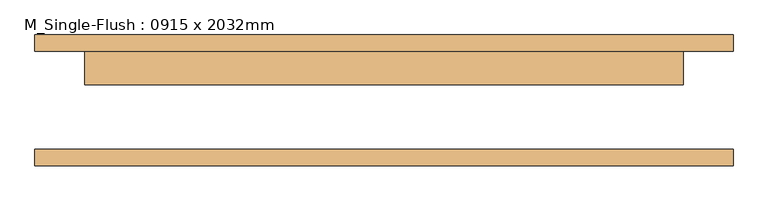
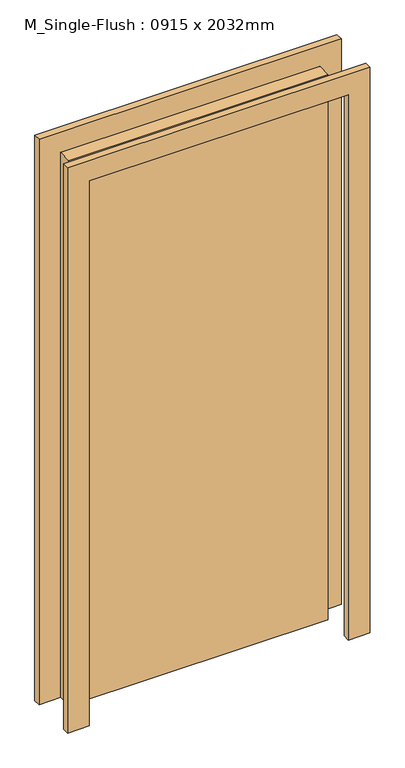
"""IFC4 building model written with IfcOpenShell, lengths in millimetres: door geometry, M_Single-Flush : 0915 x 2032mm."""

from ifc_helpers import new_model, si_unit, frame, origin, origin_with_axes, place, context, project, spatial, polyline, outline, extrude, source, transform, mapped, element, save


def m_single_flush_0915_x_2032mm_d0c19338(model_context):
    return source(origin(), model_context, "Body", "SweptSolid", [
        extrude(outline(polyline([(2108.0, -533.5), (0.0, -533.5), (0.0, -457.5), (2032.0, -457.5), (2032.0, 457.5), (0.0, 457.5), (0.0, 533.5), (2108.0, 533.5), (2108.0, -533.5)])), frame((0.0, 75.0, 0.0), z_axis=(0.0, 1.0, 0.0), x_axis=(0.0, 0.0, 1.0)), (0.0, 0.0, 1.0), 25.0),
        extrude(outline(polyline([(2108.0, 533.5), (2108.0, -533.5), (0.0, -533.5), (0.0, -457.5), (2032.0, -457.5), (2032.0, 457.5), (0.0, 457.5), (0.0, 533.5), (2108.0, 533.5)])), frame((0.0, -100.0, 0.0), z_axis=(0.0, 1.0, 0.0), x_axis=(0.0, 0.0, 1.0)), (0.0, 0.0, 1.0), 25.0),
        extrude(outline(polyline([(457.5, 24.0), (-457.5, 24.0), (-457.5, 75.0), (457.5, 75.0), (457.5, 24.0)])), origin_with_axes(), (0.0, 0.0, 1.0), 2032.0),
    ])


if __name__ == "__main__":
    model = new_model("IFC4")
    model_context = context("Model", 3, world=origin())
    ifc_project = project(units=[si_unit("LENGTHUNIT", "METRE", prefix="MILLI")], contexts=[model_context])
    site = spatial("IfcSite", under=ifc_project)
    building = spatial("IfcBuilding", under=site)
    placement = place(None, origin())
    m_single_flush_0915_x_2032mm_shape = m_single_flush_0915_x_2032mm_d0c19338(model_context)
    element("IfcDoor", 1, ObjectType="M_Single-Flush : 0915 x 2032mm", at=placement, inside=building, context=model_context, shape_type="MappedRepresentation", body=[
        mapped(m_single_flush_0915_x_2032mm_shape, transform((0.0, 0.0, 0.0), x_axis=(1.0, 0.0, 0.0), y_axis=(0.0, 1.0, 0.0), z_axis=(0.0, 0.0, 1.0))),
    ])
    save(model, "model.ifc")
